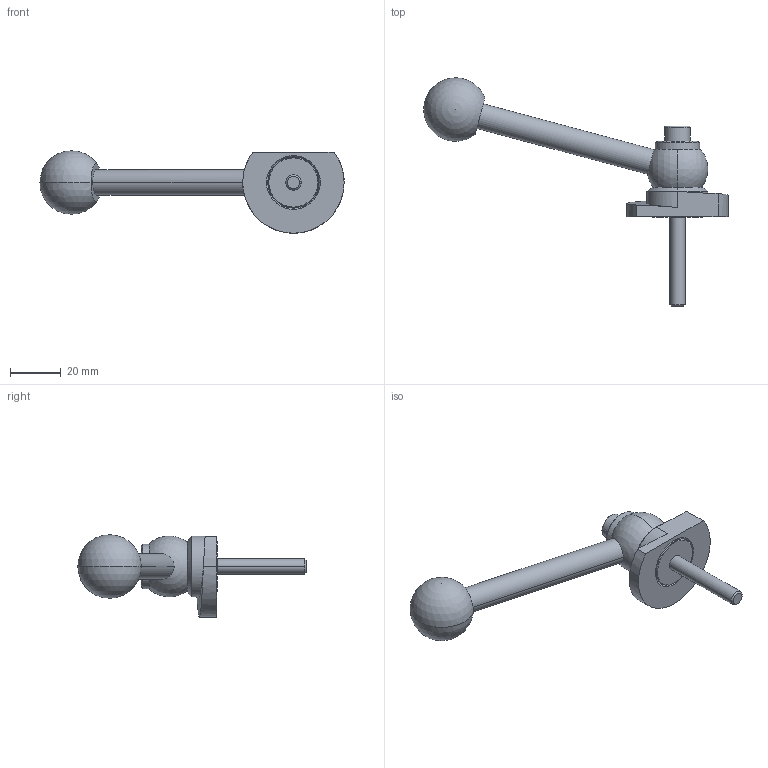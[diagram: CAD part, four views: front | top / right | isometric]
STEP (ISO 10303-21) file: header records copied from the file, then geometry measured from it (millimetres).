
FILE_DESCRIPTION (( 'STEP AP214' ), '1' );
FILE_NAME ('918.1-40-KVS-L-65.step', '2024-05-15T13:00:13', ( '' ), ( '' ), 'SwSTEP 2.0', 'SolidWorks 2022', '' );
FILE_SCHEMA (( 'AUTOMOTIVE_DESIGN' ));
Length unit declared in the file: millimetre
Products named in the file (1): 918.1-40-KVS-L-65
Bounding box: 119.95 x 89.99 x 32.5 mm (x, y, z)
Volume: 30739.9 mm3; surface area: 11495.8 mm2
Topology: 1 solids, 1 shells, 62 faces, 141 edges, 89 vertices
Faces by surface type: plane 20, cylinder 19, cone 14, sphere 4, bspline 3, torus 2
Entity records: 2003 total; most frequent: CARTESIAN_POINT 614, DIRECTION 304, ORIENTED_EDGE 262, EDGE_CURVE 131, AXIS2_PLACEMENT_3D 125, VERTEX_POINT 83, EDGE_LOOP 74, CIRCLE 65
